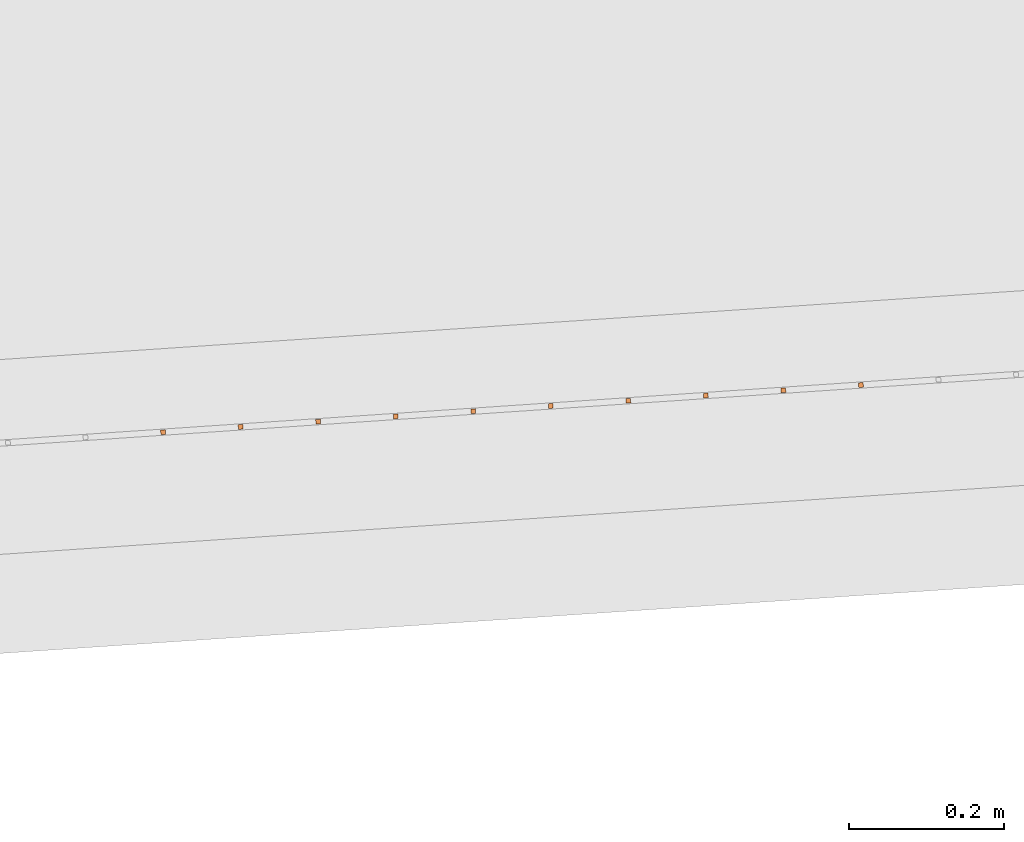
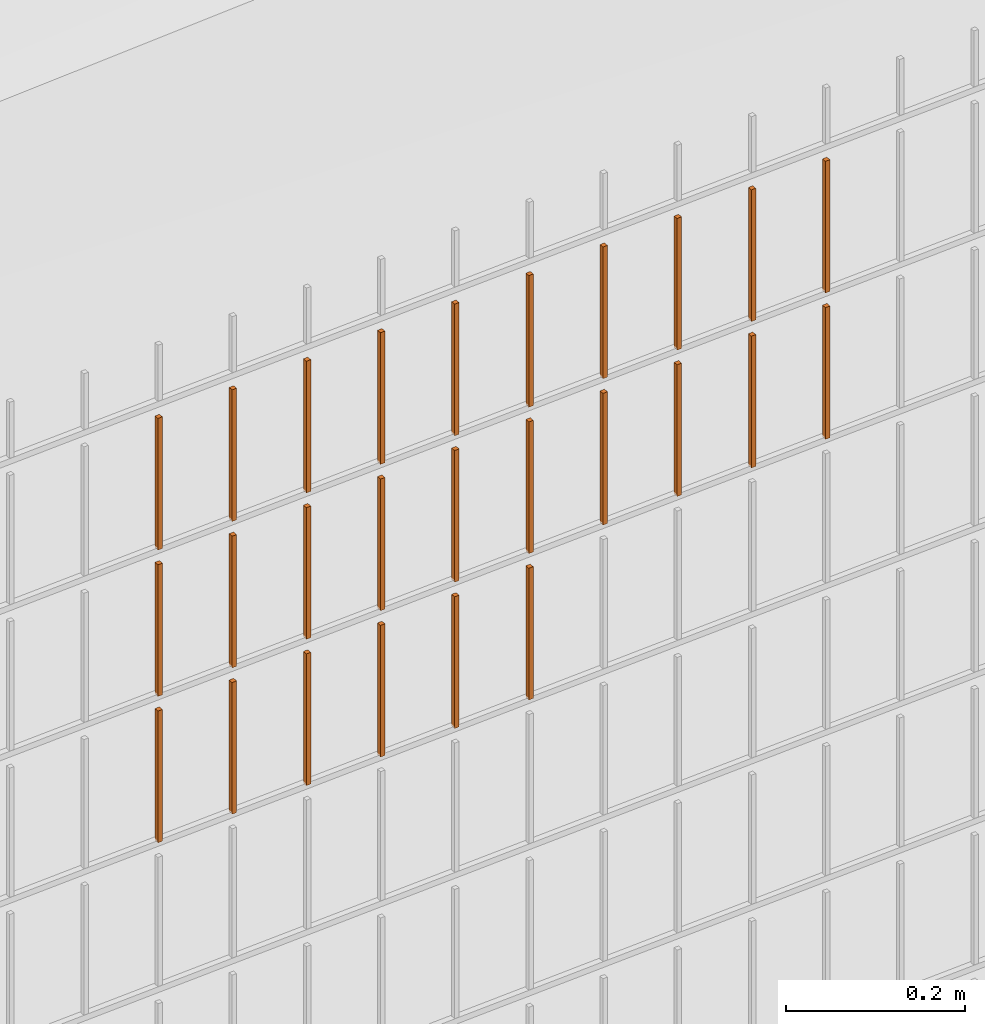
# One storey, part 303 of 1809: 26 proxies, 1 element without a shape of its own.
"""IFC2X3 building model written with IfcOpenShell, lengths in millimetres."""

import ifcopenshell
import ifcopenshell.guid

model = None  # the IFC model being written
_history = None  # IfcOwnerHistory: only IFC2X3 demands one
_inside = {}  # id of a spatial element -> (the spatial element, [elements in it])
_under = {}  # id of a project, library or spatial element -> (it, [spatial elements below it])
_declared = {}  # id of a project -> (the project, [libraries it declares])
_typed = {}  # id of a type object -> (the type object, [elements of that type])
_made_of = {}  # id of a material, layer set ... -> (it, [elements and type objects made of it])


def new_model(schema):
    """Start an empty IFC model of exactly this schema.

    Asked for "IFC4X3", IfcOpenShell would pick the latest addendum, in which some entities
    have other attributes; the version numbers below select the first issue.
    IFC2X3 requires an IfcOwnerHistory on every rooted entity: one is made here for all.
    """
    global model, _history
    if schema == "IFC4X3":
        model = ifcopenshell.file(schema_version=(4, 3, 0, 0))
    else:
        model = ifcopenshell.file(schema=schema)
    _inside.clear()
    _under.clear()
    _declared.clear()
    _typed.clear()
    _made_of.clear()
    _history = None
    if model.schema == "IFC2X3":
        org = make("IfcOrganization", Name="unknown")
        user = make(
            "IfcPersonAndOrganization",
            ThePerson=make("IfcPerson", FamilyName="unknown"),
            TheOrganization=org,
        )
        app = make(
            "IfcApplication",
            ApplicationDeveloper=org,
            Version="unknown",
            ApplicationFullName="unknown",
            ApplicationIdentifier="unknown",
        )
        _history = make(
            "IfcOwnerHistory",
            OwningUser=user,
            OwningApplication=app,
            ChangeAction="ADDED",
            CreationDate=0,
        )
    return model


def make(cls, **values):
    """One entity of the class cls with the attributes given. An attribute that is None is left unset."""
    return model.create_entity(
        cls, **{name: value for name, value in values.items() if value is not None}
    )


def entity(cls, *values):
    """Any entity or typed value of the class cls, its attributes in the order of the schema. None: left unset."""
    e = model.create_entity(cls)
    for i, value in enumerate(values):
        if value is not None:
            e[i] = value
    return e


def rooted(cls, **values):
    """An entity with a GlobalId (a new one), such as an element, a storey or a relation."""
    return make(cls, GlobalId=ifcopenshell.guid.new(), OwnerHistory=_history, **values)


def si_unit(unit_type, name, prefix=None):
    """IfcSIUnit, for example si_unit("LENGTHUNIT", "METRE", prefix="MILLI")."""
    return make("IfcSIUnit", UnitType=unit_type, Prefix=prefix, Name=name)


def converted_unit(unit_type, name, factor, base, dimensions=None, offset=None):
    """IfcConversionBasedUnit, such as the inch: factor (a typed value) times the base unit."""
    return make(
        "IfcConversionBasedUnit"
        if offset is None
        else "IfcConversionBasedUnitWithOffset",
        ConversionOffset=offset,
        Dimensions=None
        if dimensions is None
        else entity("IfcDimensionalExponents", *dimensions),
        UnitType=unit_type,
        Name=name,
        ConversionFactor=make(
            "IfcMeasureWithUnit", ValueComponent=factor, UnitComponent=base
        ),
    )


def derived_unit(unit_type, elements):
    """IfcDerivedUnit: a product of units, each with its exponent."""
    return make(
        "IfcDerivedUnit",
        Elements=[
            make("IfcDerivedUnitElement", Unit=unit, Exponent=power)
            for unit, power in elements
        ],
        UnitType=unit_type,
    )


def money_unit(currency):
    """IfcMonetaryUnit."""
    return make("IfcMonetaryUnit", Currency=currency)


def assignment(units):
    """IfcUnitAssignment: the units of a project."""
    return None if units is None else make("IfcUnitAssignment", Units=units)


def point(xyz):
    """IfcCartesianPoint."""
    return None if xyz is None else make("IfcCartesianPoint", Coordinates=xyz)


def direction(xyz):
    """IfcDirection."""
    return None if xyz is None else make("IfcDirection", DirectionRatios=xyz)


def frame(location, z_axis=None, x_axis=None):
    """IfcAxis2Placement3D, a coordinate frame: its origin and axes. An axis left out is left unset."""
    return make(
        "IfcAxis2Placement3D",
        Location=point(location),
        Axis=direction(z_axis),
        RefDirection=direction(x_axis),
    )


def origin_with_axes():
    """The frame at (0, 0, 0) with the z axis (0, 0, 1) and the x axis (1, 0, 0) written out."""
    return frame((0.0, 0.0, 0.0), z_axis=(0.0, 0.0, 1.0), x_axis=(1.0, 0.0, 0.0))


def place(relative_to, where):
    """IfcLocalPlacement: puts the frame where relative to a parent placement (None: the world)."""
    return make(
        "IfcLocalPlacement", PlacementRelTo=relative_to, RelativePlacement=where
    )


def context(
    kind, dimensions, precision=None, world=None, true_north=None, identifier=None
):
    """IfcGeometricRepresentationContext, for example the 3D "Model" context."""
    return make(
        "IfcGeometricRepresentationContext",
        ContextIdentifier=identifier,
        ContextType=kind,
        CoordinateSpaceDimension=dimensions,
        Precision=precision,
        WorldCoordinateSystem=world,
        TrueNorth=true_north,
    )


def subcontext(parent, identifier, kind, view, scale=None):
    """IfcGeometricRepresentationSubContext, for example "Body" below "Model"."""
    return make(
        "IfcGeometricRepresentationSubContext",
        ContextIdentifier=identifier,
        ContextType=kind,
        ParentContext=parent,
        TargetScale=scale,
        TargetView=view,
    )


def project(units=None, contexts=None):
    """IfcProject with its units and contexts."""
    return rooted(
        "IfcProject",
        Name="project",
        RepresentationContexts=contexts,
        UnitsInContext=assignment(units),
    )


def spatial(cls, under=None, at=None, **own):
    """A site, building, storey or space (cls), placed at a placement, below another one or the project."""
    s = rooted(cls, ObjectPlacement=at, **own)
    if under is not None:
        _under.setdefault(under.id(), (under, []))[1].append(s)
    return s


def faces_of(points, faces, orient=None, outer=None):
    """IfcFace entities. A face is a list of loops; a loop is a list of indices into points, from 0.

    orient and outer hold one flag for each loop. By default every Orientation is true, the
    first loop of a face is its IfcFaceOuterBound and the others are IfcFaceBound.
    """
    made = []
    for i, loops in enumerate(faces):
        bounds = []
        for j, loop in enumerate(loops):
            is_outer = j == 0 if outer is None else outer[i][j]
            bounds.append(
                make(
                    "IfcFaceOuterBound" if is_outer else "IfcFaceBound",
                    Bound=make("IfcPolyLoop", Polygon=[points[k] for k in loop]),
                    Orientation=True if orient is None else orient[i][j],
                )
            )
        made.append(make("IfcFace", Bounds=bounds))
    return made


def faceted_brep(points, faces, orient=None, outer=None, voids=None):
    """IfcFacetedBrep: a solid bounded by flat faces; with voids (closed shells), ...WithVoids."""
    shared = [point(p) for p in points]
    hull = make("IfcClosedShell", CfsFaces=faces_of(shared, faces, orient, outer))
    if voids is None:
        return make("IfcFacetedBrep", Outer=hull)
    return make(
        "IfcFacetedBrepWithVoids",
        Outer=hull,
        Voids=[
            make(cls, CfsFaces=faces_of(shared, fs, o, b)) for cls, fs, o, b in voids
        ],
    )


def shape(context_of_items, identifier, shape_type, items):
    """IfcShapeRepresentation: the items that make up one representation, for example the "Body"."""
    return make(
        "IfcShapeRepresentation",
        ContextOfItems=context_of_items,
        RepresentationIdentifier=identifier,
        RepresentationType=shape_type,
        Items=items,
    )


def source(mapping_origin, context_of_items, identifier, shape_type, items):
    """IfcRepresentationMap: a shape defined once, which mapped items show again and again."""
    return make(
        "IfcRepresentationMap",
        MappingOrigin=mapping_origin,
        MappedRepresentation=shape(context_of_items, identifier, shape_type, items),
    )


def transform(
    local_origin,
    x_axis=None,
    y_axis=None,
    z_axis=None,
    scale=None,
    scale2=None,
    scale3=None,
    uniform=True,
):
    """IfcCartesianTransformationOperator3D, or its non-uniform kind. x_axis, y_axis, z_axis: its Axis1, 2, 3."""
    if uniform:
        return make(
            "IfcCartesianTransformationOperator3D",
            Axis1=direction(x_axis),
            Axis2=direction(y_axis),
            LocalOrigin=point(local_origin),
            Scale=scale,
            Axis3=direction(z_axis),
        )
    return make(
        "IfcCartesianTransformationOperator3DnonUniform",
        Axis1=direction(x_axis),
        Axis2=direction(y_axis),
        LocalOrigin=point(local_origin),
        Scale=scale,
        Axis3=direction(z_axis),
        Scale2=scale2,
        Scale3=scale3,
    )


def mapped(mapping_source, mapping_target):
    """IfcMappedItem: shows the shape of a source again, moved by a transform."""
    return make(
        "IfcMappedItem", MappingSource=mapping_source, MappingTarget=mapping_target
    )


def material(Name=None, Category=None):
    """IfcMaterial."""
    return make("IfcMaterial", Name=Name, Category=Category)


def made_of(thing, what):
    """Note that an element or type object is made of a material, layer set ...; save() writes the relation."""
    if what is not None:
        _made_of.setdefault(what.id(), (what, []))[1].append(thing)
    return thing


def type_object(cls, material=None, **own):
    """A type object (cls), such as IfcWallType, which elements share."""
    return made_of(rooted(cls, **own), material)


def element(
    cls,
    number,
    at=None,
    inside=None,
    cuts=None,
    type_object=None,
    material=None,
    context=None,
    identifier="Body",
    shape_type=None,
    held_by="IfcProductDefinitionShape",
    body=None,
    shapes=None,
    **own,
):
    """One element of the class cls, such as IfcWall. Its Tag is "e" and its number.

    at: its placement. inside: the storey or other place that contains it. cuts: it is an
    opening in that element (IfcRelVoidsElement). A single representation is given by context,
    identifier, shape_type and body (its items); several are given by shapes. held_by: the class
    of the entity that holds the representations. save() writes the other relations.
    """
    e = rooted(cls, Tag="e%d" % number, ObjectPlacement=at, **own)
    if body is not None:
        shapes = [shape(context, identifier, shape_type, body)]
    if shapes is not None:
        e.Representation = make(held_by, Representations=shapes)
    if inside is not None:
        _inside.setdefault(inside.id(), (inside, []))[1].append(e)
    if cuts is not None:
        rooted(
            "IfcRelVoidsElement", RelatingBuildingElement=cuts, RelatedOpeningElement=e
        )
    if type_object is not None:
        _typed.setdefault(type_object.id(), (type_object, []))[1].append(e)
    return made_of(e, material)


def aggregate(whole, parts):
    """IfcRelAggregates: a whole, such as a stair, and the parts it consists of."""
    return rooted("IfcRelAggregates", RelatingObject=whole, RelatedObjects=parts)


def save(model, path):
    """Write the relations noted so far, then the file.

    IfcRelAggregates (storeys below a building ...), IfcRelContainedInSpatialStructure (elements
    in a storey), IfcRelDefinesByType, IfcRelAssociatesMaterial and IfcRelDeclares: one each for
    every whole, place, type object, material and project.
    """
    for whole, parts in _under.values():
        aggregate(whole, parts)
    for where, things in _inside.values():
        rooted(
            "IfcRelContainedInSpatialStructure",
            RelatedElements=things,
            RelatingStructure=where,
        )
    for kind, things in _typed.values():
        rooted("IfcRelDefinesByType", RelatedObjects=things, RelatingType=kind)
    for what, things in _made_of.values():
        rooted("IfcRelAssociatesMaterial", RelatedObjects=things, RelatingMaterial=what)
    for by, libraries in _declared.values():
        rooted("IfcRelDeclares", RelatingContext=by, RelatedDefinitions=libraries)
    model.write(path)


model = new_model("IFC2X3")

# Units and contexts
model_context = context("Model", 3, precision=0.01, world=origin_with_axes(), true_north=direction((0.0, 1.0)))
body_context = subcontext(model_context, "Body", "Model", "MODEL_VIEW")
ifc_project = project(units=[si_unit("LENGTHUNIT", "METRE", prefix="MILLI"), si_unit("AREAUNIT", "SQUARE_METRE"), si_unit("VOLUMEUNIT", "CUBIC_METRE"), converted_unit("PLANEANGLEUNIT", "DEGREE", entity("IfcPlaneAngleMeasure", 0.0174532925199), si_unit("PLANEANGLEUNIT", "RADIAN"), dimensions=[0, 0, 0, 0, 0, 0, 0]), si_unit("SOLIDANGLEUNIT", "STERADIAN"), money_unit("EUR"), converted_unit("TIMEUNIT", "Year", entity("IfcTimeMeasure", 31556926.0), si_unit("TIMEUNIT", "SECOND"), dimensions=[0, 0, 1, 0, 0, 0, 0]), si_unit("MASSUNIT", "GRAM", prefix="KILO"), si_unit("THERMODYNAMICTEMPERATUREUNIT", "DEGREE_CELSIUS"), si_unit("LUMINOUSINTENSITYUNIT", "LUMEN"), si_unit("ENERGYUNIT", "JOULE", prefix="MEGA"), derived_unit("THERMALCONDUCTANCEUNIT", [(si_unit("POWERUNIT", "WATT"), 1), (si_unit("LENGTHUNIT", "METRE"), -1), (si_unit("THERMODYNAMICTEMPERATUREUNIT", "KELVIN"), -1)]), derived_unit("SPECIFICHEATCAPACITYUNIT", [(si_unit("ENERGYUNIT", "JOULE"), 1), (si_unit("MASSUNIT", "GRAM", prefix="KILO"), -1), (si_unit("THERMODYNAMICTEMPERATUREUNIT", "KELVIN"), -1)]), derived_unit("MASSDENSITYUNIT", [(si_unit("MASSUNIT", "GRAM", prefix="KILO"), 1), (si_unit("VOLUMEUNIT", "CUBIC_METRE"), -1)])], contexts=[model_context])

# Site, building, storey
site_placement = place(None, origin_with_axes())
site = spatial("IfcSite", under=ifc_project, at=site_placement, Name="Politse- ja Piirivalveameti ning Päästeameti ühishoone", CompositionType="ELEMENT")
building_placement = place(site_placement, origin_with_axes())
building = spatial("IfcBuilding", under=site, at=building_placement, Name="Politse- ja Piirivalveameti ning Päästeameti ühishoone", CompositionType="ELEMENT")
storey_placement = place(building_placement, origin_with_axes())
storey = spatial("IfcBuildingStorey", under=building, at=storey_placement, Name="Esimene korrus", CompositionType="ELEMENT", Elevation=0.0)

# Proxies
building_element_proxy_type_1 = type_object("IfcBuildingElementProxyType", Name="Railing Type", PredefinedType="NOTDEFINED")
proxy_1_placement = place(storey_placement, frame((89252.001212, -29183.4766571, 203.661247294), z_axis=(0.0, 0.0, 1.0), x_axis=(1.0, 0.0, 0.0)))
proxy_1 = element("IfcBuildingElementProxy", 1, at=proxy_1_placement, inside=storey, type_object=building_element_proxy_type_1, Name="PIIRDEAED")
ifc_material = material(Name="ET-03_Raud")
building_element_proxy_type_2 = type_object("IfcBuildingElementProxyType", Name="IfcBuildingElementProxy", PredefinedType="NOTDEFINED")
shared_shape_1 = source(origin_with_axes(), body_context, "Body", "Brep", [
    faceted_brep([(3.0, 3.0, -0.000752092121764), (-3.0, 3.0, -0.000752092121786), (-3.0, 3.0, 179.99926046), (3.0, 3.0, 179.99926046), (3.0, -3.0, 0.000752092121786), (-3.0, -3.0, 0.000752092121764), (-3.0, -3.0, 180.000764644), (3.0, -3.0, 180.000764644)], [[[0, 1, 2, 3]], [[0, 4, 5, 1]], [[1, 5, 6, 2]], [[3, 2, 6, 7]], [[4, 0, 3, 7]], [[5, 4, 7, 6]]]),
])
proxy_2_placement = place(proxy_1_placement, frame((-43826.8219724, -20258.1111894, 1816.22208019), z_axis=(0.0, 0.0, 1.0), x_axis=(1.0, 0.0, 0.0)))
proxy_2 = element("IfcBuildingElementProxy", 2, at=proxy_2_placement, type_object=building_element_proxy_type_2, material=ifc_material, Name="BALUSTER - 001", context=body_context, shape_type="MappedRepresentation", body=[
    mapped(shared_shape_1, transform((0.0, 0.0, 0.0), x_axis=(-0.0673926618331, 0.997726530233, 0.0), y_axis=(-0.997726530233, -0.0673926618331, 0.0), z_axis=(0.0, 0.0, 1.0))),
])
shared_shape_2 = source(origin_with_axes(), body_context, "Body", "Brep", [
    faceted_brep([(3.0, 3.0, -0.000752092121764), (-3.0, 3.0, -0.000752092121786), (-3.0, 3.0, 179.99926046), (3.0, 3.0, 179.99926046), (3.0, -3.0, 0.000752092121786), (-3.0, -3.0, 0.000752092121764), (-3.0, -3.0, 180.000764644), (3.0, -3.0, 180.000764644)], [[[0, 1, 2, 3]], [[0, 4, 5, 1]], [[1, 5, 6, 2]], [[3, 2, 6, 7]], [[4, 0, 3, 7]], [[5, 4, 7, 6]]]),
])
proxy_3_placement = place(proxy_1_placement, frame((-43826.8219724, -20258.1111894, 1416.22208019), z_axis=(0.0, 0.0, 1.0), x_axis=(1.0, 0.0, 0.0)))
proxy_3 = element("IfcBuildingElementProxy", 3, at=proxy_3_placement, type_object=building_element_proxy_type_2, material=ifc_material, Name="BALUSTER - 001", context=body_context, shape_type="MappedRepresentation", body=[
    mapped(shared_shape_2, transform((0.0, 0.0, 0.0), x_axis=(-0.0673926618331, 0.997726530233, 0.0), y_axis=(-0.997726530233, -0.0673926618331, 0.0), z_axis=(0.0, 0.0, 1.0))),
])
proxy_4_placement = place(proxy_1_placement, frame((-43826.8219724, -20258.1111894, 1616.22208019), z_axis=(0.0, 0.0, 1.0), x_axis=(1.0, 0.0, 0.0)))
proxy_4 = element("IfcBuildingElementProxy", 4, at=proxy_4_placement, type_object=building_element_proxy_type_2, material=ifc_material, Name="BALUSTER - 001", context=body_context, shape_type="MappedRepresentation", body=[
    mapped(shared_shape_2, transform((0.0, 0.0, 0.0), x_axis=(-0.0673926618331, 0.997726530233, 0.0), y_axis=(-0.997726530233, -0.0673926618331, 0.0), z_axis=(0.0, 0.0, 1.0))),
])
shared_shape_3 = source(origin_with_axes(), body_context, "Body", "Brep", [
    faceted_brep([(3.0, 3.0, -0.000752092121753), (-3.0, 3.0, -0.000752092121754), (-3.0, 3.0, 179.99926046), (3.0, 3.0, 179.99926046), (3.0, -3.0, 0.000752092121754), (-3.0, -3.0, 0.000752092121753), (-3.0, -3.0, 180.000764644), (3.0, -3.0, 180.000764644)], [[[0, 1, 2, 3]], [[0, 4, 5, 1]], [[1, 5, 6, 2]], [[3, 2, 6, 7]], [[4, 0, 3, 7]], [[5, 4, 7, 6]]]),
])
proxy_5_placement = place(proxy_1_placement, frame((-43427.7313603, -20231.1541247, 1816.32235914), z_axis=(0.0, 0.0, 1.0), x_axis=(1.0, 0.0, 0.0)))
proxy_5 = element("IfcBuildingElementProxy", 5, at=proxy_5_placement, type_object=building_element_proxy_type_2, material=ifc_material, Name="BALUSTER - 001", context=body_context, shape_type="MappedRepresentation", body=[
    mapped(shared_shape_3, transform((0.0, 0.0, 0.0), x_axis=(-0.0673926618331, 0.997726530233, 0.0), y_axis=(-0.997726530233, -0.0673926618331, 0.0), z_axis=(0.0, 0.0, 1.0))),
])
shared_shape_4 = source(origin_with_axes(), body_context, "Body", "Brep", [
    faceted_brep([(3.0, 3.0, -0.000752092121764), (-3.0, 3.0, -0.000752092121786), (-3.0, 3.0, 179.99926046), (3.0, 3.0, 179.99926046), (3.0, -3.0, 0.000752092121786), (-3.0, -3.0, 0.000752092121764), (-3.0, -3.0, 180.000764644), (3.0, -3.0, 180.000764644)], [[[0, 1, 2, 3]], [[0, 4, 5, 1]], [[1, 5, 6, 2]], [[3, 2, 6, 7]], [[4, 0, 3, 7]], [[5, 4, 7, 6]]]),
])
proxy_6_placement = place(proxy_1_placement, frame((-43926.5946254, -20264.8504556, 1816.19701045), z_axis=(0.0, 0.0, 1.0), x_axis=(1.0, 0.0, 0.0)))
proxy_6 = element("IfcBuildingElementProxy", 6, at=proxy_6_placement, type_object=building_element_proxy_type_2, material=ifc_material, Name="BALUSTER - 001", context=body_context, shape_type="MappedRepresentation", body=[
    mapped(shared_shape_4, transform((0.0, 0.0, 0.0), x_axis=(-0.0673926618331, 0.997726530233, 0.0), y_axis=(-0.997726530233, -0.0673926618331, 0.0), z_axis=(0.0, 0.0, 1.0))),
])
shared_shape_5 = source(origin_with_axes(), body_context, "Body", "Brep", [
    faceted_brep([(3.0, 3.0, -0.000752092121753), (-3.0, 3.0, -0.000752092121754), (-3.0, 3.0, 179.99926046), (3.0, 3.0, 179.99926046), (3.0, -3.0, 0.000752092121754), (-3.0, -3.0, 0.000752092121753), (-3.0, -3.0, 180.000764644), (3.0, -3.0, 180.000764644)], [[[0, 1, 2, 3]], [[0, 4, 5, 1]], [[1, 5, 6, 2]], [[3, 2, 6, 7]], [[4, 0, 3, 7]], [[5, 4, 7, 6]]]),
])
proxy_7_placement = place(proxy_1_placement, frame((-43427.7313603, -20231.1541247, 1616.32235914), z_axis=(0.0, 0.0, 1.0), x_axis=(1.0, 0.0, 0.0)))
proxy_7 = element("IfcBuildingElementProxy", 7, at=proxy_7_placement, type_object=building_element_proxy_type_2, material=ifc_material, Name="BALUSTER - 001", context=body_context, shape_type="MappedRepresentation", body=[
    mapped(shared_shape_5, transform((0.0, 0.0, 0.0), x_axis=(-0.0673926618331, 0.997726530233, 0.0), y_axis=(-0.997726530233, -0.0673926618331, 0.0), z_axis=(0.0, 0.0, 1.0))),
])
shared_shape_6 = source(origin_with_axes(), body_context, "Body", "Brep", [
    faceted_brep([(3.0, 3.0, -0.000752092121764), (-3.0, 3.0, -0.000752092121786), (-3.0, 3.0, 179.99926046), (3.0, 3.0, 179.99926046), (3.0, -3.0, 0.000752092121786), (-3.0, -3.0, 0.000752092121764), (-3.0, -3.0, 180.000764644), (3.0, -3.0, 180.000764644)], [[[0, 1, 2, 3]], [[0, 4, 5, 1]], [[1, 5, 6, 2]], [[3, 2, 6, 7]], [[4, 0, 3, 7]], [[5, 4, 7, 6]]]),
])
proxy_8_placement = place(proxy_1_placement, frame((-43926.5946254, -20264.8504556, 1416.19701045), z_axis=(0.0, 0.0, 1.0), x_axis=(1.0, 0.0, 0.0)))
proxy_8 = element("IfcBuildingElementProxy", 8, at=proxy_8_placement, type_object=building_element_proxy_type_2, material=ifc_material, Name="BALUSTER - 001", context=body_context, shape_type="MappedRepresentation", body=[
    mapped(shared_shape_6, transform((0.0, 0.0, 0.0), x_axis=(-0.0673926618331, 0.997726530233, 0.0), y_axis=(-0.997726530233, -0.0673926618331, 0.0), z_axis=(0.0, 0.0, 1.0))),
])
proxy_9_placement = place(proxy_1_placement, frame((-43926.5946254, -20264.8504556, 1616.19701045), z_axis=(0.0, 0.0, 1.0), x_axis=(1.0, 0.0, 0.0)))
proxy_9 = element("IfcBuildingElementProxy", 9, at=proxy_9_placement, type_object=building_element_proxy_type_2, material=ifc_material, Name="BALUSTER - 001", context=body_context, shape_type="MappedRepresentation", body=[
    mapped(shared_shape_6, transform((0.0, 0.0, 0.0), x_axis=(-0.0673926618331, 0.997726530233, 0.0), y_axis=(-0.997726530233, -0.0673926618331, 0.0), z_axis=(0.0, 0.0, 1.0))),
])
shared_shape_7 = source(origin_with_axes(), body_context, "Body", "Brep", [
    faceted_brep([(3.0, 3.0, -0.000752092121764), (-3.0, 3.0, -0.000752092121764), (-3.0, 3.0, 179.99926046), (3.0, 3.0, 179.99926046), (3.0, -3.0, 0.000752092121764), (-3.0, -3.0, 0.000752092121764), (-3.0, -3.0, 180.000764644), (3.0, -3.0, 180.000764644)], [[[0, 1, 2, 3]], [[0, 4, 5, 1]], [[1, 5, 6, 2]], [[3, 2, 6, 7]], [[4, 0, 3, 7]], [[5, 4, 7, 6]]]),
])
proxy_10_placement = place(proxy_1_placement, frame((-43527.5040133, -20237.8933908, 1616.2972894), z_axis=(0.0, 0.0, 1.0), x_axis=(1.0, 0.0, 0.0)))
proxy_10 = element("IfcBuildingElementProxy", 10, at=proxy_10_placement, type_object=building_element_proxy_type_2, material=ifc_material, Name="BALUSTER - 001", context=body_context, shape_type="MappedRepresentation", body=[
    mapped(shared_shape_7, transform((0.0, 0.0, 0.0), x_axis=(-0.0673926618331, 0.997726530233, 0.0), y_axis=(-0.997726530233, -0.0673926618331, 0.0), z_axis=(0.0, 0.0, 1.0))),
])
shared_shape_8 = source(origin_with_axes(), body_context, "Body", "Brep", [
    faceted_brep([(3.0, 3.0, -0.000752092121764), (-3.0, 3.0, -0.000752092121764), (-3.0, 3.0, 179.99926046), (3.0, 3.0, 179.99926046), (3.0, -3.0, 0.000752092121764), (-3.0, -3.0, 0.000752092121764), (-3.0, -3.0, 180.000764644), (3.0, -3.0, 180.000764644)], [[[0, 1, 2, 3]], [[0, 4, 5, 1]], [[1, 5, 6, 2]], [[3, 2, 6, 7]], [[4, 0, 3, 7]], [[5, 4, 7, 6]]]),
])
proxy_11_placement = place(proxy_1_placement, frame((-43727.0493194, -20251.3719232, 1416.24714993), z_axis=(0.0, 0.0, 1.0), x_axis=(1.0, 0.0, 0.0)))
proxy_11 = element("IfcBuildingElementProxy", 11, at=proxy_11_placement, type_object=building_element_proxy_type_2, material=ifc_material, Name="BALUSTER - 001", context=body_context, shape_type="MappedRepresentation", body=[
    mapped(shared_shape_8, transform((0.0, 0.0, 0.0), x_axis=(-0.0673926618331, 0.997726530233, 0.0), y_axis=(-0.997726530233, -0.0673926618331, 0.0), z_axis=(0.0, 0.0, 1.0))),
])
proxy_12_placement = place(proxy_1_placement, frame((-43727.0493194, -20251.3719232, 1616.24714993), z_axis=(0.0, 0.0, 1.0), x_axis=(1.0, 0.0, 0.0)))
proxy_12 = element("IfcBuildingElementProxy", 12, at=proxy_12_placement, type_object=building_element_proxy_type_2, material=ifc_material, Name="BALUSTER - 001", context=body_context, shape_type="MappedRepresentation", body=[
    mapped(shared_shape_8, transform((0.0, 0.0, 0.0), x_axis=(-0.0673926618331, 0.997726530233, 0.0), y_axis=(-0.997726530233, -0.0673926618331, 0.0), z_axis=(0.0, 0.0, 1.0))),
])
shared_shape_9 = source(origin_with_axes(), body_context, "Body", "Brep", [
    faceted_brep([(3.0, 3.0, -0.000752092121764), (-3.0, 3.0, -0.000752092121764), (-3.0, 3.0, 179.99926046), (3.0, 3.0, 179.99926046), (3.0, -3.0, 0.000752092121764), (-3.0, -3.0, 0.000752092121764), (-3.0, -3.0, 180.000764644), (3.0, -3.0, 180.000764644)], [[[0, 1, 2, 3]], [[0, 4, 5, 1]], [[1, 5, 6, 2]], [[3, 2, 6, 7]], [[4, 0, 3, 7]], [[5, 4, 7, 6]]]),
])
proxy_13_placement = place(proxy_1_placement, frame((-43727.0493194, -20251.3719232, 1816.24714993), z_axis=(0.0, 0.0, 1.0), x_axis=(1.0, 0.0, 0.0)))
proxy_13 = element("IfcBuildingElementProxy", 13, at=proxy_13_placement, type_object=building_element_proxy_type_2, material=ifc_material, Name="BALUSTER - 001", context=body_context, shape_type="MappedRepresentation", body=[
    mapped(shared_shape_9, transform((0.0, 0.0, 0.0), x_axis=(-0.0673926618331, 0.997726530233, 0.0), y_axis=(-0.997726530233, -0.0673926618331, 0.0), z_axis=(0.0, 0.0, 1.0))),
])
shared_shape_10 = source(origin_with_axes(), body_context, "Body", "Brep", [
    faceted_brep([(3.0, 3.0, -0.000752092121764), (-3.0, 3.0, -0.000752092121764), (-3.0, 3.0, 179.99926046), (3.0, 3.0, 179.99926046), (3.0, -3.0, 0.000752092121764), (-3.0, -3.0, 0.000752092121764), (-3.0, -3.0, 180.000764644), (3.0, -3.0, 180.000764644)], [[[0, 1, 2, 3]], [[0, 4, 5, 1]], [[1, 5, 6, 2]], [[3, 2, 6, 7]], [[4, 0, 3, 7]], [[5, 4, 7, 6]]]),
])
proxy_14_placement = place(proxy_1_placement, frame((-43527.5040133, -20237.8933908, 1816.2972894), z_axis=(0.0, 0.0, 1.0), x_axis=(1.0, 0.0, 0.0)))
proxy_14 = element("IfcBuildingElementProxy", 14, at=proxy_14_placement, type_object=building_element_proxy_type_2, material=ifc_material, Name="BALUSTER - 001", context=body_context, shape_type="MappedRepresentation", body=[
    mapped(shared_shape_10, transform((0.0, 0.0, 0.0), x_axis=(-0.0673926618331, 0.997726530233, 0.0), y_axis=(-0.997726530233, -0.0673926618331, 0.0), z_axis=(0.0, 0.0, 1.0))),
])
shared_shape_11 = source(origin_with_axes(), body_context, "Body", "Brep", [
    faceted_brep([(3.0, 3.0, -0.000752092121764), (-3.0, 3.0, -0.000752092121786), (-3.0, 3.0, 179.99926046), (3.0, 3.0, 179.99926046), (3.0, -3.0, 0.000752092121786), (-3.0, -3.0, 0.000752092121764), (-3.0, -3.0, 180.000764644), (3.0, -3.0, 180.000764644)], [[[0, 1, 2, 3]], [[0, 4, 5, 1]], [[1, 5, 6, 2]], [[3, 2, 6, 7]], [[4, 0, 3, 7]], [[5, 4, 7, 6]]]),
])
proxy_15_placement = place(proxy_1_placement, frame((-43228.1860543, -20217.6755923, 1816.37249862), z_axis=(0.0, 0.0, 1.0), x_axis=(1.0, 0.0, 0.0)))
proxy_15 = element("IfcBuildingElementProxy", 15, at=proxy_15_placement, type_object=building_element_proxy_type_2, material=ifc_material, Name="BALUSTER - 001", context=body_context, shape_type="MappedRepresentation", body=[
    mapped(shared_shape_11, transform((0.0, 0.0, 0.0), x_axis=(-0.0673926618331, 0.997726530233, 0.0), y_axis=(-0.997726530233, -0.0673926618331, 0.0), z_axis=(0.0, 0.0, 1.0))),
])
shared_shape_12 = source(origin_with_axes(), body_context, "Body", "Brep", [
    faceted_brep([(3.0, 3.0, -0.000752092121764), (-3.0, 3.0, -0.000752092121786), (-3.0, 3.0, 179.99926046), (3.0, 3.0, 179.99926046), (3.0, -3.0, 0.000752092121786), (-3.0, -3.0, 0.000752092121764), (-3.0, -3.0, 180.000764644), (3.0, -3.0, 180.000764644)], [[[0, 1, 2, 3]], [[0, 4, 5, 1]], [[1, 5, 6, 2]], [[3, 2, 6, 7]], [[4, 0, 3, 7]], [[5, 4, 7, 6]]]),
])
proxy_16_placement = place(proxy_1_placement, frame((-43228.1860543, -20217.6755923, 1616.37249862), z_axis=(0.0, 0.0, 1.0), x_axis=(1.0, 0.0, 0.0)))
proxy_16 = element("IfcBuildingElementProxy", 16, at=proxy_16_placement, type_object=building_element_proxy_type_2, material=ifc_material, Name="BALUSTER - 001", context=body_context, shape_type="MappedRepresentation", body=[
    mapped(shared_shape_12, transform((0.0, 0.0, 0.0), x_axis=(-0.0673926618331, 0.997726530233, 0.0), y_axis=(-0.997726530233, -0.0673926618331, 0.0), z_axis=(0.0, 0.0, 1.0))),
])
shared_shape_13 = source(origin_with_axes(), body_context, "Body", "Brep", [
    faceted_brep([(3.0, 3.0, -0.000752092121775), (-3.0, 3.0, -0.000752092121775), (-3.0, 3.0, 179.99926046), (3.0, 3.0, 179.99926046), (3.0, -3.0, 0.000752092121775), (-3.0, -3.0, 0.000752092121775), (-3.0, -3.0, 180.000764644), (3.0, -3.0, 180.000764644)], [[[0, 1, 2, 3]], [[0, 4, 5, 1]], [[1, 5, 6, 2]], [[3, 2, 6, 7]], [[4, 0, 3, 7]], [[5, 4, 7, 6]]]),
])
proxy_17_placement = place(proxy_1_placement, frame((-43327.9587073, -20224.4148585, 1816.34742888), z_axis=(0.0, 0.0, 1.0), x_axis=(1.0, 0.0, 0.0)))
proxy_17 = element("IfcBuildingElementProxy", 17, at=proxy_17_placement, type_object=building_element_proxy_type_2, material=ifc_material, Name="BALUSTER - 001", context=body_context, shape_type="MappedRepresentation", body=[
    mapped(shared_shape_13, transform((0.0, 0.0, 0.0), x_axis=(-0.0673926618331, 0.997726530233, 0.0), y_axis=(-0.997726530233, -0.0673926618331, 0.0), z_axis=(0.0, 0.0, 1.0))),
])
shared_shape_14 = source(origin_with_axes(), body_context, "Body", "Brep", [
    faceted_brep([(3.0, 3.0, -0.000752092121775), (-3.0, 3.0, -0.000752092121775), (-3.0, 3.0, 179.99926046), (3.0, 3.0, 179.99926046), (3.0, -3.0, 0.000752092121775), (-3.0, -3.0, 0.000752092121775), (-3.0, -3.0, 180.000764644), (3.0, -3.0, 180.000764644)], [[[0, 1, 2, 3]], [[0, 4, 5, 1]], [[1, 5, 6, 2]], [[3, 2, 6, 7]], [[4, 0, 3, 7]], [[5, 4, 7, 6]]]),
])
proxy_18_placement = place(proxy_1_placement, frame((-43327.9587073, -20224.4148585, 1616.34742888), z_axis=(0.0, 0.0, 1.0), x_axis=(1.0, 0.0, 0.0)))
proxy_18 = element("IfcBuildingElementProxy", 18, at=proxy_18_placement, type_object=building_element_proxy_type_2, material=ifc_material, Name="BALUSTER - 001", context=body_context, shape_type="MappedRepresentation", body=[
    mapped(shared_shape_14, transform((0.0, 0.0, 0.0), x_axis=(-0.0673926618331, 0.997726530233, 0.0), y_axis=(-0.997726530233, -0.0673926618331, 0.0), z_axis=(0.0, 0.0, 1.0))),
])
shared_shape_15 = source(origin_with_axes(), body_context, "Body", "Brep", [
    faceted_brep([(3.0, 3.0, -0.000752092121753), (-3.0, 3.0, -0.000752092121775), (-3.0, 3.0, 179.99926046), (3.0, 3.0, 179.99926046), (3.0, -3.0, 0.000752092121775), (-3.0, -3.0, 0.000752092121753), (-3.0, -3.0, 180.000764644), (3.0, -3.0, 180.000764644)], [[[0, 1, 2, 3]], [[0, 4, 5, 1]], [[1, 5, 6, 2]], [[3, 2, 6, 7]], [[4, 0, 3, 7]], [[5, 4, 7, 6]]]),
])
proxy_19_placement = place(proxy_1_placement, frame((-44026.3672785, -20271.5897218, 1416.17194072), z_axis=(0.0, 0.0, 1.0), x_axis=(1.0, 0.0, 0.0)))
proxy_19 = element("IfcBuildingElementProxy", 19, at=proxy_19_placement, type_object=building_element_proxy_type_2, material=ifc_material, Name="BALUSTER - 001", context=body_context, shape_type="MappedRepresentation", body=[
    mapped(shared_shape_15, transform((0.0, 0.0, 0.0), x_axis=(-0.0673926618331, 0.997726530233, 0.0), y_axis=(-0.997726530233, -0.0673926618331, 0.0), z_axis=(0.0, 0.0, 1.0))),
])
proxy_20_placement = place(proxy_1_placement, frame((-44026.3672785, -20271.5897218, 1616.17194072), z_axis=(0.0, 0.0, 1.0), x_axis=(1.0, 0.0, 0.0)))
proxy_20 = element("IfcBuildingElementProxy", 20, at=proxy_20_placement, type_object=building_element_proxy_type_2, material=ifc_material, Name="BALUSTER - 001", context=body_context, shape_type="MappedRepresentation", body=[
    mapped(shared_shape_15, transform((0.0, 0.0, 0.0), x_axis=(-0.0673926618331, 0.997726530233, 0.0), y_axis=(-0.997726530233, -0.0673926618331, 0.0), z_axis=(0.0, 0.0, 1.0))),
])
shared_shape_16 = source(origin_with_axes(), body_context, "Body", "Brep", [
    faceted_brep([(3.0, 3.0, -0.000752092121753), (-3.0, 3.0, -0.000752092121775), (-3.0, 3.0, 179.99926046), (3.0, 3.0, 179.99926046), (3.0, -3.0, 0.000752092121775), (-3.0, -3.0, 0.000752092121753), (-3.0, -3.0, 180.000764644), (3.0, -3.0, 180.000764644)], [[[0, 1, 2, 3]], [[0, 4, 5, 1]], [[1, 5, 6, 2]], [[3, 2, 6, 7]], [[4, 0, 3, 7]], [[5, 4, 7, 6]]]),
])
proxy_21_placement = place(proxy_1_placement, frame((-44126.1399315, -20278.3289879, 1416.14687098), z_axis=(0.0, 0.0, 1.0), x_axis=(1.0, 0.0, 0.0)))
proxy_21 = element("IfcBuildingElementProxy", 21, at=proxy_21_placement, type_object=building_element_proxy_type_2, material=ifc_material, Name="BALUSTER - 001", context=body_context, shape_type="MappedRepresentation", body=[
    mapped(shared_shape_16, transform((0.0, 0.0, 0.0), x_axis=(-0.0673926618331, 0.997726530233, 0.0), y_axis=(-0.997726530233, -0.0673926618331, 0.0), z_axis=(0.0, 0.0, 1.0))),
])
proxy_22_placement = place(proxy_1_placement, frame((-44126.1399315, -20278.3289879, 1616.14687098), z_axis=(0.0, 0.0, 1.0), x_axis=(1.0, 0.0, 0.0)))
proxy_22 = element("IfcBuildingElementProxy", 22, at=proxy_22_placement, type_object=building_element_proxy_type_2, material=ifc_material, Name="BALUSTER - 001", context=body_context, shape_type="MappedRepresentation", body=[
    mapped(shared_shape_16, transform((0.0, 0.0, 0.0), x_axis=(-0.0673926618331, 0.997726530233, 0.0), y_axis=(-0.997726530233, -0.0673926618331, 0.0), z_axis=(0.0, 0.0, 1.0))),
])
shared_shape_17 = source(origin_with_axes(), body_context, "Body", "Brep", [
    faceted_brep([(3.0, 3.0, -0.000752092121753), (-3.0, 3.0, -0.000752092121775), (-3.0, 3.0, 179.99926046), (3.0, 3.0, 179.99926046), (3.0, -3.0, 0.000752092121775), (-3.0, -3.0, 0.000752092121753), (-3.0, -3.0, 180.000764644), (3.0, -3.0, 180.000764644)], [[[0, 1, 2, 3]], [[0, 4, 5, 1]], [[1, 5, 6, 2]], [[3, 2, 6, 7]], [[4, 0, 3, 7]], [[5, 4, 7, 6]]]),
])
proxy_23_placement = place(proxy_1_placement, frame((-44026.3672785, -20271.5897218, 1816.17194072), z_axis=(0.0, 0.0, 1.0), x_axis=(1.0, 0.0, 0.0)))
proxy_23 = element("IfcBuildingElementProxy", 23, at=proxy_23_placement, type_object=building_element_proxy_type_2, material=ifc_material, Name="BALUSTER - 001", context=body_context, shape_type="MappedRepresentation", body=[
    mapped(shared_shape_17, transform((0.0, 0.0, 0.0), x_axis=(-0.0673926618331, 0.997726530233, 0.0), y_axis=(-0.997726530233, -0.0673926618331, 0.0), z_axis=(0.0, 0.0, 1.0))),
])
proxy_24_placement = place(proxy_1_placement, frame((-44126.1399315, -20278.3289879, 1816.14687098), z_axis=(0.0, 0.0, 1.0), x_axis=(1.0, 0.0, 0.0)))
proxy_24 = element("IfcBuildingElementProxy", 24, at=proxy_24_placement, type_object=building_element_proxy_type_2, material=ifc_material, Name="BALUSTER - 001", context=body_context, shape_type="MappedRepresentation", body=[
    mapped(shared_shape_17, transform((0.0, 0.0, 0.0), x_axis=(-0.0673926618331, 0.997726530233, 0.0), y_axis=(-0.997726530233, -0.0673926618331, 0.0), z_axis=(0.0, 0.0, 1.0))),
])
shared_shape_18 = source(origin_with_axes(), body_context, "Body", "Brep", [
    faceted_brep([(3.0, 3.0, -0.000752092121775), (-3.0, 3.0, -0.000752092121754), (-3.0, 3.0, 179.99926046), (3.0, 3.0, 179.99926046), (3.0, -3.0, 0.000752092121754), (-3.0, -3.0, 0.000752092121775), (-3.0, -3.0, 180.000764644), (3.0, -3.0, 180.000764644)], [[[0, 1, 2, 3]], [[0, 4, 5, 1]], [[1, 5, 6, 2]], [[3, 2, 6, 7]], [[4, 0, 3, 7]], [[5, 4, 7, 6]]]),
])
proxy_25_placement = place(proxy_1_placement, frame((-43627.2766664, -20244.632657, 1416.27221967), z_axis=(0.0, 0.0, 1.0), x_axis=(1.0, 0.0, 0.0)))
proxy_25 = element("IfcBuildingElementProxy", 25, at=proxy_25_placement, type_object=building_element_proxy_type_2, material=ifc_material, Name="BALUSTER - 001", context=body_context, shape_type="MappedRepresentation", body=[
    mapped(shared_shape_18, transform((0.0, 0.0, 0.0), x_axis=(-0.0673926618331, 0.997726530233, 0.0), y_axis=(-0.997726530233, -0.0673926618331, 0.0), z_axis=(0.0, 0.0, 1.0))),
])
proxy_26_placement = place(proxy_1_placement, frame((-43627.2766664, -20244.632657, 1616.27221967), z_axis=(0.0, 0.0, 1.0), x_axis=(1.0, 0.0, 0.0)))
proxy_26 = element("IfcBuildingElementProxy", 26, at=proxy_26_placement, type_object=building_element_proxy_type_2, material=ifc_material, Name="BALUSTER - 001", context=body_context, shape_type="MappedRepresentation", body=[
    mapped(shared_shape_18, transform((0.0, 0.0, 0.0), x_axis=(-0.0673926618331, 0.997726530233, 0.0), y_axis=(-0.997726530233, -0.0673926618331, 0.0), z_axis=(0.0, 0.0, 1.0))),
])
shared_shape_19 = source(origin_with_axes(), body_context, "Body", "Brep", [
    faceted_brep([(3.0, 3.0, -0.000752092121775), (-3.0, 3.0, -0.000752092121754), (-3.0, 3.0, 179.99926046), (3.0, 3.0, 179.99926046), (3.0, -3.0, 0.000752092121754), (-3.0, -3.0, 0.000752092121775), (-3.0, -3.0, 180.000764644), (3.0, -3.0, 180.000764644)], [[[0, 1, 2, 3]], [[0, 4, 5, 1]], [[1, 5, 6, 2]], [[3, 2, 6, 7]], [[4, 0, 3, 7]], [[5, 4, 7, 6]]]),
])
proxy_27_placement = place(proxy_1_placement, frame((-43627.2766664, -20244.632657, 1816.27221967), z_axis=(0.0, 0.0, 1.0), x_axis=(1.0, 0.0, 0.0)))
proxy_27 = element("IfcBuildingElementProxy", 27, at=proxy_27_placement, type_object=building_element_proxy_type_2, material=ifc_material, Name="BALUSTER - 001", context=body_context, shape_type="MappedRepresentation", body=[
    mapped(shared_shape_19, transform((0.0, 0.0, 0.0), x_axis=(-0.0673926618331, 0.997726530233, 0.0), y_axis=(-0.997726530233, -0.0673926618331, 0.0), z_axis=(0.0, 0.0, 1.0))),
])
aggregate(proxy_1, [proxy_25, proxy_11, proxy_3, proxy_8, proxy_19, proxy_21, proxy_16, proxy_18, proxy_7, proxy_10, proxy_26, proxy_12, proxy_4, proxy_9, proxy_20, proxy_22, proxy_15, proxy_17, proxy_5, proxy_14, proxy_27, proxy_13, proxy_2, proxy_6, proxy_23, proxy_24])

save(model, "model.ifc")
